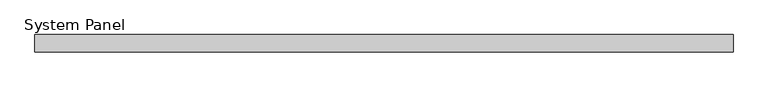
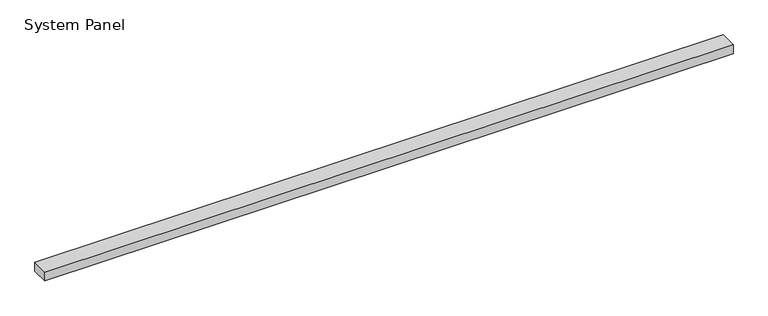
"""IFC4 building model written with IfcOpenShell, lengths in millimetres: plate geometry, System Panel : Equitilt 150mm Horizontal - Plain RHEA - EPS-FR."""

from ifc_helpers import new_model, si_unit, origin, origin_with_axes, place, context, project, spatial, polyline, outline, extrude, source, transform, mapped, element, save


def system_panel_a81ec092(model_context):
    return source(origin(), model_context, "Body", "SweptSolid", [
        extrude(outline(polyline([(2990.0, -150.0), (-2990.0, -150.0), (-2990.0, 0.0), (2990.0, 0.0), (2990.0, -150.0)])), origin_with_axes(), (0.0, 0.0, 1.0), 79.9704237),
    ])


if __name__ == "__main__":
    model = new_model("IFC4")
    model_context = context("Model", 3, world=origin())
    ifc_project = project(units=[si_unit("LENGTHUNIT", "METRE", prefix="MILLI")], contexts=[model_context])
    site = spatial("IfcSite", under=ifc_project)
    building = spatial("IfcBuilding", under=site)
    placement = place(None, origin())
    system_panel_shape = system_panel_a81ec092(model_context)
    element("IfcPlate", 1, ObjectType="System Panel : Equitilt 150mm Horizontal - Plain RHEA - EPS-FR", at=placement, inside=building, context=model_context, shape_type="MappedRepresentation", body=[
        mapped(system_panel_shape, transform((0.0, 0.0, 0.0), x_axis=(1.0, 0.0, 0.0), y_axis=(0.0, 1.0, 0.0), z_axis=(0.0, 0.0, 1.0))),
    ])
    save(model, "model.ifc")
